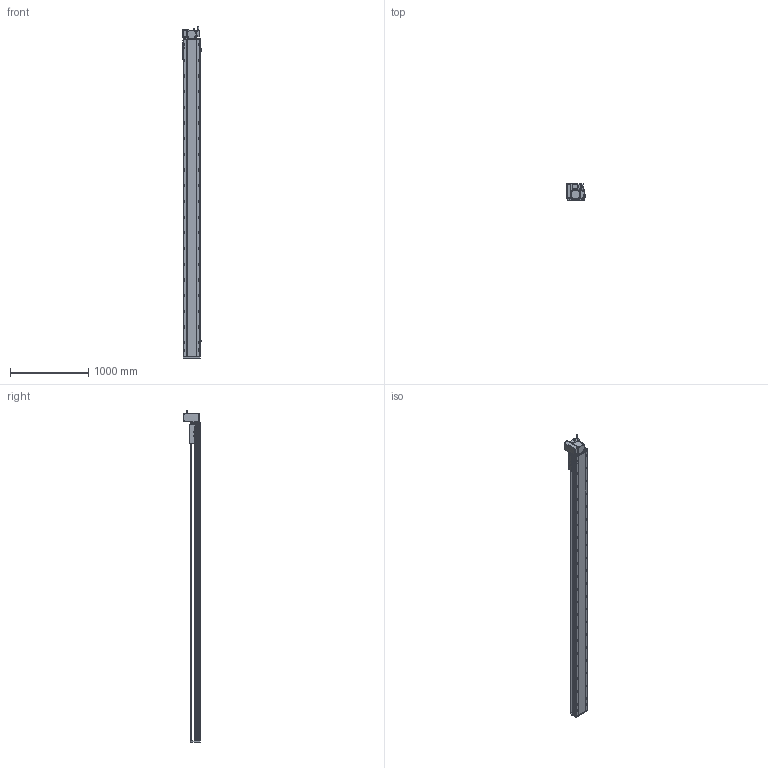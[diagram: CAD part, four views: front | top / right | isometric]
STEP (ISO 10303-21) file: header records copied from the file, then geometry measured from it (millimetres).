
FILE_DESCRIPTION (( 'STEP AP214' ), '1' );
FILE_NAME ('RTB22S-XX-3700-LW-M75-C4.STEP', '2025-12-12T07:09:29', ( '' ), ( '' ), 'SwSTEP 2.0', 'SolidWorks 2018', '' );
FILE_SCHEMA (( 'AUTOMOTIVE_DESIGN' ));
Length unit declared in the file: millimetre
Products named in the file (14): RTB22S-GY-018P^RTB22S-LW-々湍釱蚾饜_RTB22S-XX-XX-LW-M75-C4; RTB22S-GY-008-M75--萇儂啣^RTB22S-LW-々湍釱蚾饜_RTB22S-XX-XX-LW-M75-C4; RTB22S-L-004賑釱^RTB22S-XX-XX-LW-M75-C4; RTB22S-XX-3700-LW-M75-C4; RTB22S-GY-005P^RTB22S-LW-々湍釱蚾饜_RTB22S-XX-XX-LW-M75-C4; RTB22S-GY-017P^RTB22S-LW-々湍釱蚾饜_RTB22S-XX-XX-LW-M75-C4; RTB22S-GY-014--々湍釱^RTB22S-LW-々湍釱蚾饜_RTB22S-XX-XX-LW-M75-C4; RTH22-GY-013外置感应片^RTB22S-XX-XX-LW-M75-C4; 750W萇儂^RTB22S-XX-XX-LW-M75-C4; RTB22S-GY-007奻裔^RTB22S-XX-XX-LW-M75-C4; OMRON EE-SX672 传感器^RTB22S-XX-XX-LW-M75-C4; RTB22S-GY-001耜裔^RTB22S-XX-XX-LW-M75-C4; RTB22S-L-011菁釱^RTB22S-XX-XX-LW-M75-C4; RTB22S-LW-々湍釱蚾饜^RTB22S-XX-XX-LW-M75-C4
Assembly tree (16 placements, depth 3):
  RTB22S-XX-3700-LW-M75-C4
    RTB22S-L-011菁釱^RTB22S-XX-XX-LW-M75-C4
    RTB22S-GY-001耜裔^RTB22S-XX-XX-LW-M75-C4
    750W萇儂^RTB22S-XX-XX-LW-M75-C4
    RTB22S-GY-007奻裔^RTB22S-XX-XX-LW-M75-C4
    RTB22S-L-004賑釱^RTB22S-XX-XX-LW-M75-C4
    RTH22-GY-013外置感应片^RTB22S-XX-XX-LW-M75-C4
    OMRON EE-SX672 传感器^RTB22S-XX-XX-LW-M75-C4  x3
    RTB22S-LW-々湍釱蚾饜^RTB22S-XX-XX-LW-M75-C4
      RTB22S-GY-014--々湍釱^RTB22S-LW-々湍釱蚾饜_RTB22S-XX-XX-LW-M75-C4
      RTB22S-GY-017P^RTB22S-LW-々湍釱蚾饜_RTB22S-XX-XX-LW-M75-C4  x2
      RTB22S-GY-005P^RTB22S-LW-々湍釱蚾饜_RTB22S-XX-XX-LW-M75-C4
      RTB22S-GY-008-M75--萇儂啣^RTB22S-LW-々湍釱蚾饜_RTB22S-XX-XX-LW-M75-C4
      RTB22S-GY-018P^RTB22S-LW-々湍釱蚾饜_RTB22S-XX-XX-LW-M75-C4
Bounding box: 238.5 x 215.5 x 4232.2 mm (x, y, z)
Volume: 52742458.3 mm3; surface area: 5362345.4 mm2
Topology: 15 solids, 15 shells, 2217 faces, 6036 edges, 3842 vertices
Faces by surface type: plane 941, cylinder 778, bspline 296, cone 190, sphere 8, torus 4
Entity records: 61322 total; most frequent: CARTESIAN_POINT 17096, ORIENTED_EDGE 8756, DIRECTION 8652, EDGE_CURVE 4378, AXIS2_PLACEMENT_3D 3138, VERTEX_POINT 2846, VECTOR 2376, LINE 2376
